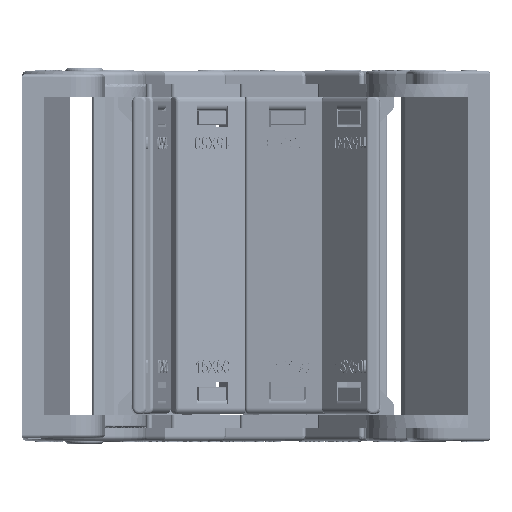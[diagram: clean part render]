
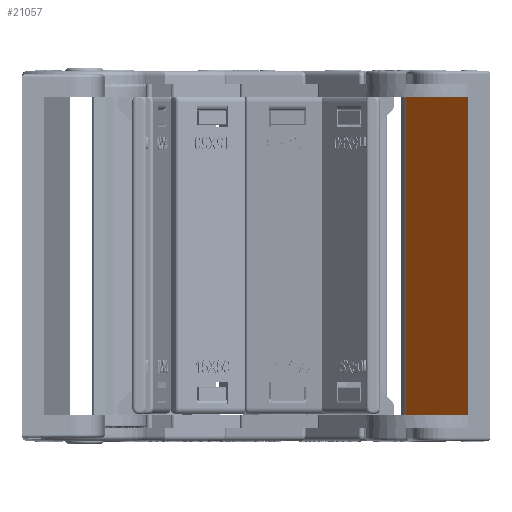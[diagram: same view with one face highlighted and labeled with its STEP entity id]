
A CAD part, left-side view. The second image highlights one B-rep face of the part: STEP entity #21057.
In plain terms, the highlighted planar face has unit normal (-0.667, 0.745, 0) as drawn and (0, 1, 0) by its records, which use the part's own axes.
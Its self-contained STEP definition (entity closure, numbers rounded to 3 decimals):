
#558 = VERTEX_POINT ( 'NONE', #16929 ) ;
#1239 = DIRECTION ( 'NONE',  ( 1., 0., 0. ) ) ;
#1588 = ORIENTED_EDGE ( 'NONE', *, *, #4877, .F. ) ;
#2949 = DIRECTION ( 'NONE',  ( 1., 0., 0. ) ) ;
#4877 = EDGE_CURVE ( 'NONE', #558, #17356, #16339, .T. ) ;
#6845 = CARTESIAN_POINT ( 'NONE',  ( -5.983, -7.95, -52. ) ) ;
#6946 = DIRECTION ( 'NONE',  ( 0., 0., 1. ) ) ;
#7854 = CARTESIAN_POINT ( 'NONE',  ( -5.983, -7.95, -27. ) ) ;
#8148 = CARTESIAN_POINT ( 'NONE',  ( -25.644, -7.95, -27. ) ) ;
#8601 = VECTOR ( 'NONE', #6946, 1000. ) ;
#9422 = LINE ( 'NONE', #14260, #20297 ) ;
#11278 = CARTESIAN_POINT ( 'NONE',  ( -25.644, -7.95, -52. ) ) ;
#11310 = EDGE_LOOP ( 'NONE', ( #27079, #1588, #18126, #37825 ) ) ;
#14260 = CARTESIAN_POINT ( 'NONE',  ( -5.983, -7.95, -2. ) ) ;
#14417 = EDGE_CURVE ( 'NONE', #36493, #558, #15079, .T. ) ;
#14486 = PLANE ( 'NONE',  #26921 ) ;
#15079 = LINE ( 'NONE', #6845, #23900 ) ;
#16339 = LINE ( 'NONE', #23464, #8601 ) ;
#16929 = CARTESIAN_POINT ( 'NONE',  ( -5.983, -7.95, -52. ) ) ;
#17356 = VERTEX_POINT ( 'NONE', #37264 ) ;
#17822 = DIRECTION ( 'NONE',  ( 0., -1., 0. ) ) ;
#18126 = ORIENTED_EDGE ( 'NONE', *, *, #14417, .F. ) ;
#20297 = VECTOR ( 'NONE', #1239, 1000. ) ;
#20710 = VERTEX_POINT ( 'NONE', #42081 ) ;
#21057 = ADVANCED_FACE ( 'NONE', ( #40375 ), #14486, .F. ) ;
#23175 = VECTOR ( 'NONE', #24666, 1000. ) ;
#23464 = CARTESIAN_POINT ( 'NONE',  ( -5.983, -7.95, -27. ) ) ;
#23900 = VECTOR ( 'NONE', #2949, 1000. ) ;
#24666 = DIRECTION ( 'NONE',  ( 0., 0., 1. ) ) ;
#24978 = EDGE_CURVE ( 'NONE', #36493, #20710, #39634, .T. ) ;
#26921 = AXIS2_PLACEMENT_3D ( 'NONE', #7854, #17822, #40912 ) ;
#27079 = ORIENTED_EDGE ( 'NONE', *, *, #34239, .T. ) ;
#34239 = EDGE_CURVE ( 'NONE', #20710, #17356, #9422, .T. ) ;
#36493 = VERTEX_POINT ( 'NONE', #11278 ) ;
#37264 = CARTESIAN_POINT ( 'NONE',  ( -5.983, -7.95, -2. ) ) ;
#37825 = ORIENTED_EDGE ( 'NONE', *, *, #24978, .T. ) ;
#39634 = LINE ( 'NONE', #8148, #23175 ) ;
#40375 = FACE_OUTER_BOUND ( 'NONE', #11310, .T. ) ;
#40912 = DIRECTION ( 'NONE',  ( 1., 0., 0. ) ) ;
#42081 = CARTESIAN_POINT ( 'NONE',  ( -25.644, -7.95, -2. ) ) ;
